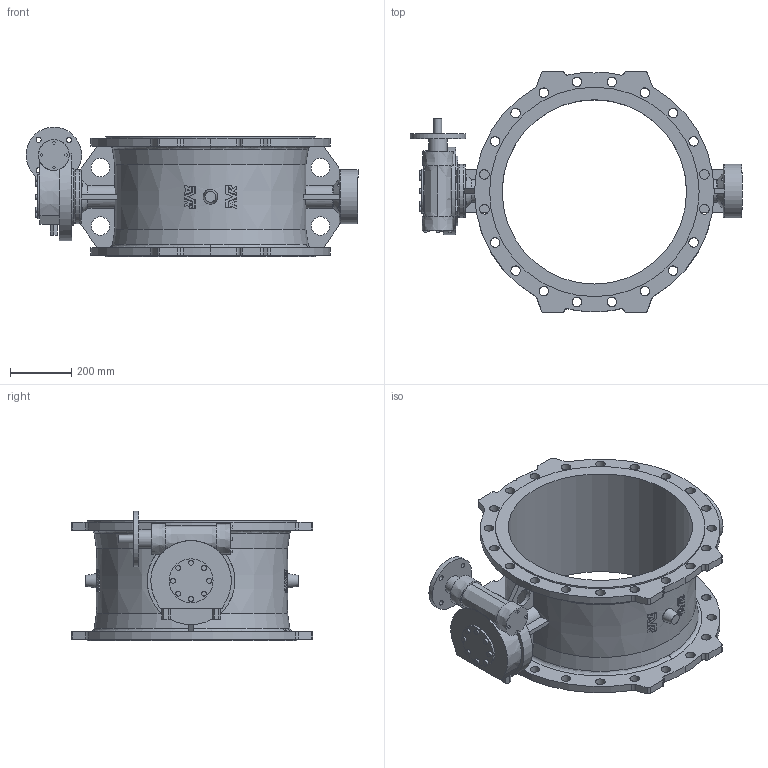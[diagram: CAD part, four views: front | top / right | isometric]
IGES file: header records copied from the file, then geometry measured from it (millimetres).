
Start section: SolidWorks IGES file using analytic representation for surfaces
Global section: file name: \\avksan2\techshare\PBM outline export from Enovia\O_756_102_DN600_0XX_AA0_igs.igs; native system: SolidWorks 2012; preprocessor: SolidWorks 2012; author: pbm; date: 160309.130159; units: millimetre
Bounding box: 1080.5 x 786 x 421.4 mm (x, y, z)
Surface area: 2890512.1 mm2 (no closed solid volume)
Topology: 0 solids, 0 shells, 637 faces, 3570 edges, 3430 vertices
Faces by surface type: bspline 433, revolution 204
